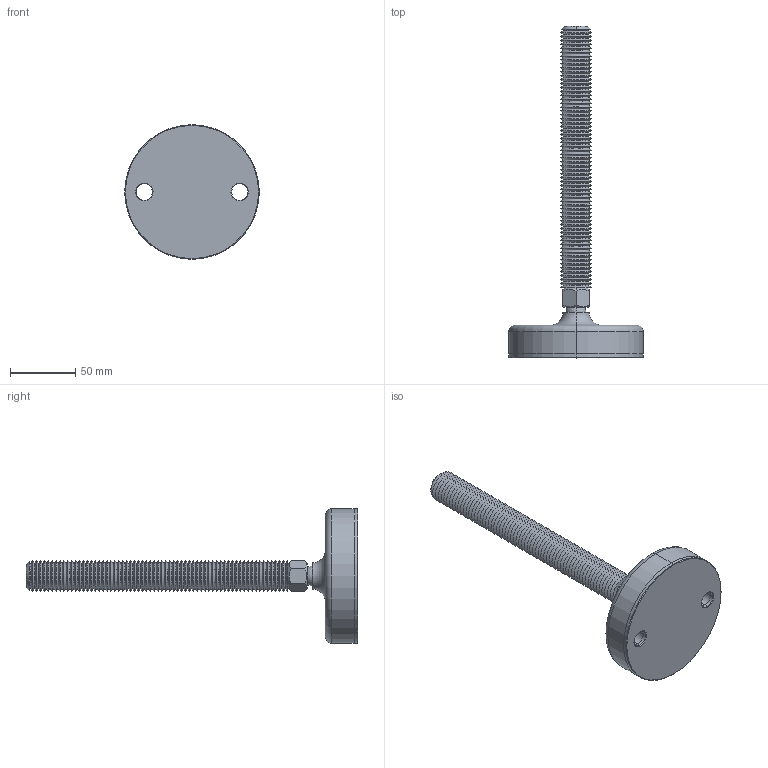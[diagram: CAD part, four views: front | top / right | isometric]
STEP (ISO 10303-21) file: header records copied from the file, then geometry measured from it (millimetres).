
FILE_DESCRIPTION (( 'STEP AP203' ), '1' );
FILE_NAME ('34724.W2405.step', '2019-11-28T22:21:11', ( '' ), ( '' ), 'SwSTEP 2.0', 'SolidWorks 2017', '' );
FILE_SCHEMA (( 'CONFIG_CONTROL_DESIGN' ));
Length unit declared in the file: millimetre
Products named in the file (4): Part1_34724.W2405; Part2_34724.W2405; 34724.W2405; Part3_34724.W2405
Assembly tree (3 placements, depth 2):
  34724.W2405
    Part1_34724.W2405
    Part2_34724.W2405
    Part3_34724.W2405
Bounding box: 103 x 254 x 103 mm (x, y, z)
Volume: 283144.5 mm3; surface area: 71166.1 mm2
Topology: 3 solids, 3 shells, 316 faces, 647 edges, 337 vertices
Faces by surface type: cone 282, plane 14, cylinder 12, sphere 4, torus 4
Entity records: 8566 total; most frequent: DIRECTION 1596, CARTESIAN_POINT 1444, ORIENTED_EDGE 1276, AXIS2_PLACEMENT_3D 648, EDGE_CURVE 638, VERTEX_POINT 332, EDGE_LOOP 328, CIRCLE 326
